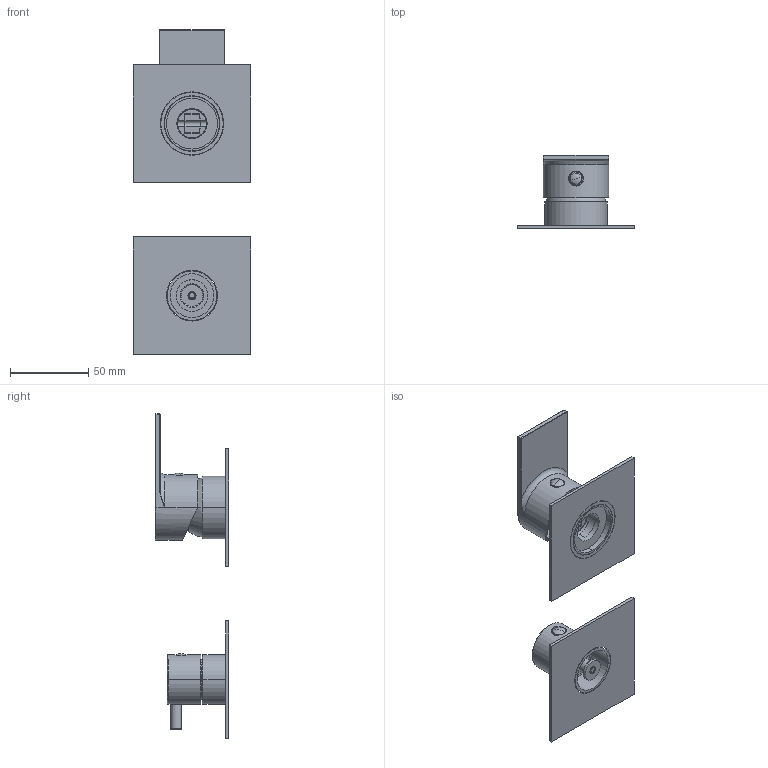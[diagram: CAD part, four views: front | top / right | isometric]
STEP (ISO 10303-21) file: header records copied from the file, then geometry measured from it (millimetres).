
FILE_DESCRIPTION((''),'2;1');
FILE_NAME('3D_SW0002','2024-09-30T16:40:22',('volponeff'),(''),'CREO PARAMETRIC BY PTC INC, 2022014','CREO PARAMETRIC BY PTC INC, 2022014','');
FILE_SCHEMA(('CONFIG_CONTROL_DESIGN'));
Products named in the file (1): 3D_SW0002
Bounding box: 75 x 46.9 x 207.5 mm (x, y, z)
Volume: 72809.3 mm3; surface area: 66773.8 mm2
Topology: 6 solids, 6 shells, 859 faces, 2365 edges, 1509 vertices
Faces by surface type: cylinder 345, plane 230, bspline 97, cone 95, torus 78, sphere 14
Entity records: 73434 total; most frequent: CARTESIAN_POINT 52678, ORIENTED_EDGE 4682, DIRECTION 3874, EDGE_CURVE 2341, VERTEX_POINT 1509, AXIS2_PLACEMENT_3D 1455, VECTOR 964, LINE 964
